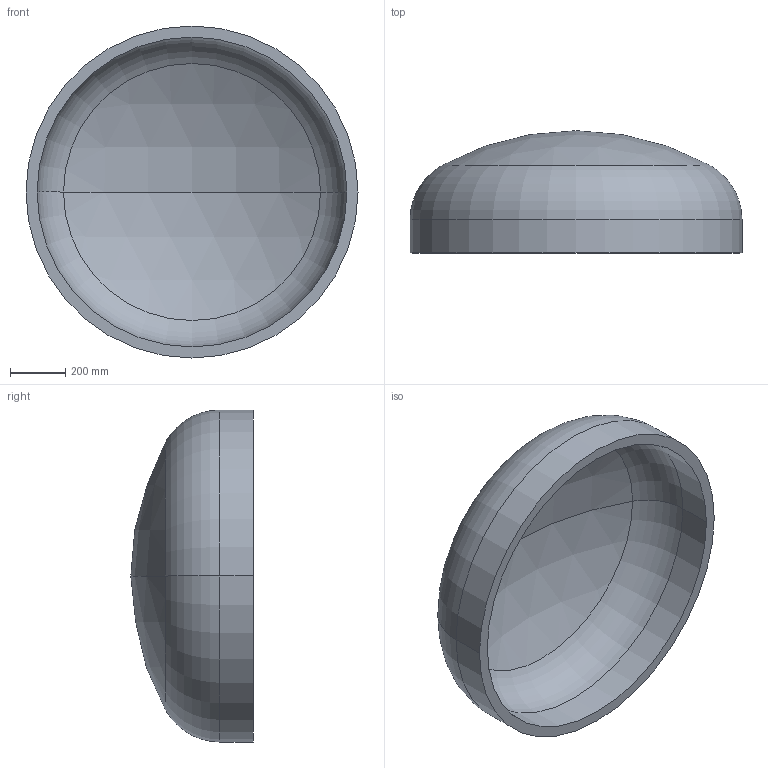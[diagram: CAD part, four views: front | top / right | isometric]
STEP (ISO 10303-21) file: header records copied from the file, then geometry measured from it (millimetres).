
FILE_DESCRIPTION (( 'STEP AP203' ), '1' );
FILE_NAME ('DIN 28013 Korbbogenform_-_Boden DIN 28013 - 1200 x 120 - I - s=40.step', '2016-07-01T09:28:27', ( '' ), ( '' ), 'SwSTEP 2.0', 'SolidWorks 2013', '' );
FILE_SCHEMA (( 'CONFIG_CONTROL_DESIGN' ));
Length unit declared in the file: millimetre
Products named in the file (1): DIN 28013 Korbbogenform_-_Boden DIN 28013 - 1200 x 120 - I - s=40
Bounding box: 1200 x 441.77 x 1200 mm (x, y, z)
Volume: 77497973.4 mm3; surface area: 4024018.6 mm2
Topology: 1 solids, 1 shells, 13 faces, 24 edges, 14 vertices
Faces by surface type: torus 4, cylinder 4, sphere 4, plane 1
Entity records: 407 total; most frequent: DIRECTION 72, CARTESIAN_POINT 52, ORIENTED_EDGE 48, AXIS2_PLACEMENT_3D 34, EDGE_CURVE 24, CIRCLE 20, VERTEX_POINT 14, EDGE_LOOP 14
